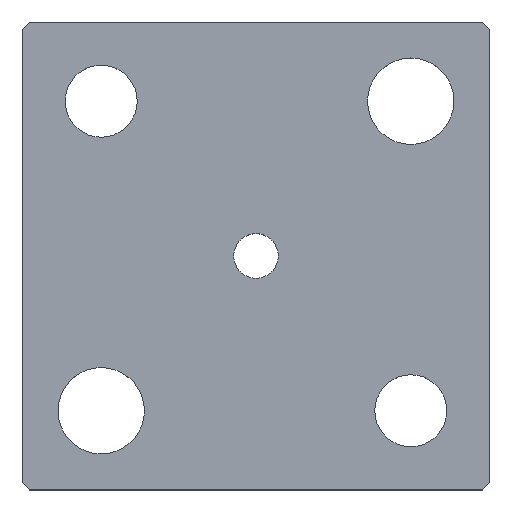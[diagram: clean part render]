
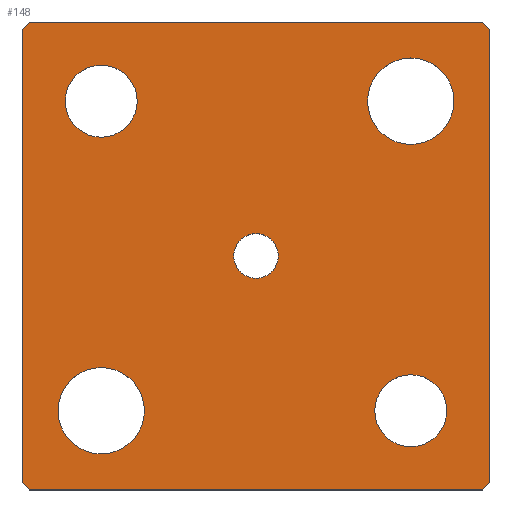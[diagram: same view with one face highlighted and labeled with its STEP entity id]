
A CAD part, top view. The second image highlights one B-rep face of the part: STEP entity #148.
In plain terms, the highlighted planar face has unit normal (0, 0, 1).
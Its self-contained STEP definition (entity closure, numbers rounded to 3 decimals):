
#117=CIRCLE('',#503,3.1);
#118=CIRCLE('',#504,3.1);
#119=CIRCLE('',#505,5.);
#120=CIRCLE('',#506,5.);
#121=CIRCLE('',#507,6.);
#122=CIRCLE('',#508,6.);
#123=CIRCLE('',#509,6.);
#124=CIRCLE('',#510,6.);
#125=CIRCLE('',#511,5.);
#126=CIRCLE('',#512,5.);
#133=FACE_BOUND('',#201,.T.);
#134=FACE_BOUND('',#202,.T.);
#135=FACE_BOUND('',#203,.T.);
#136=FACE_BOUND('',#204,.T.);
#137=FACE_BOUND('',#205,.T.);
#138=FACE_BOUND('',#206,.T.);
#148=ADVANCED_FACE('',(#133,#134,#135,#136,#137,#138),#168,.T.);
#168=PLANE('',#513);
#201=EDGE_LOOP('',(#267,#268,#269,#270,#271,#272,#273,#274));
#202=EDGE_LOOP('',(#275,#276));
#203=EDGE_LOOP('',(#277,#278));
#204=EDGE_LOOP('',(#279,#280));
#205=EDGE_LOOP('',(#281,#282));
#206=EDGE_LOOP('',(#283,#284));
#267=ORIENTED_EDGE('',*,*,#362,.T.);
#268=ORIENTED_EDGE('',*,*,#366,.T.);
#269=ORIENTED_EDGE('',*,*,#369,.T.);
#270=ORIENTED_EDGE('',*,*,#372,.T.);
#271=ORIENTED_EDGE('',*,*,#375,.T.);
#272=ORIENTED_EDGE('',*,*,#378,.T.);
#273=ORIENTED_EDGE('',*,*,#381,.T.);
#274=ORIENTED_EDGE('',*,*,#384,.T.);
#275=ORIENTED_EDGE('',*,*,#395,.T.);
#276=ORIENTED_EDGE('',*,*,#396,.T.);
#277=ORIENTED_EDGE('',*,*,#397,.T.);
#278=ORIENTED_EDGE('',*,*,#398,.T.);
#279=ORIENTED_EDGE('',*,*,#399,.T.);
#280=ORIENTED_EDGE('',*,*,#400,.T.);
#281=ORIENTED_EDGE('',*,*,#401,.T.);
#282=ORIENTED_EDGE('',*,*,#402,.T.);
#283=ORIENTED_EDGE('',*,*,#403,.T.);
#284=ORIENTED_EDGE('',*,*,#404,.T.);
#326=VERTEX_POINT('',#643);
#327=VERTEX_POINT('',#645);
#330=VERTEX_POINT('',#652);
#332=VERTEX_POINT('',#658);
#334=VERTEX_POINT('',#664);
#336=VERTEX_POINT('',#670);
#338=VERTEX_POINT('',#676);
#340=VERTEX_POINT('',#682);
#351=VERTEX_POINT('',#711);
#352=VERTEX_POINT('',#712);
#353=VERTEX_POINT('',#715);
#354=VERTEX_POINT('',#716);
#355=VERTEX_POINT('',#719);
#356=VERTEX_POINT('',#720);
#357=VERTEX_POINT('',#723);
#358=VERTEX_POINT('',#724);
#359=VERTEX_POINT('',#727);
#360=VERTEX_POINT('',#728);
#362=EDGE_CURVE('',#327,#326,#416,.T.);
#366=EDGE_CURVE('',#326,#330,#420,.T.);
#369=EDGE_CURVE('',#330,#332,#423,.T.);
#372=EDGE_CURVE('',#332,#334,#426,.T.);
#375=EDGE_CURVE('',#334,#336,#429,.T.);
#378=EDGE_CURVE('',#336,#338,#432,.T.);
#381=EDGE_CURVE('',#338,#340,#435,.T.);
#384=EDGE_CURVE('',#340,#327,#438,.T.);
#395=EDGE_CURVE('',#351,#352,#117,.T.);
#396=EDGE_CURVE('',#352,#351,#118,.T.);
#397=EDGE_CURVE('',#353,#354,#119,.T.);
#398=EDGE_CURVE('',#354,#353,#120,.T.);
#399=EDGE_CURVE('',#355,#356,#121,.T.);
#400=EDGE_CURVE('',#356,#355,#122,.T.);
#401=EDGE_CURVE('',#357,#358,#123,.T.);
#402=EDGE_CURVE('',#358,#357,#124,.T.);
#403=EDGE_CURVE('',#359,#360,#125,.T.);
#404=EDGE_CURVE('',#360,#359,#126,.T.);
#416=LINE('',#644,#450);
#420=LINE('',#653,#454);
#423=LINE('',#659,#457);
#426=LINE('',#665,#460);
#429=LINE('',#671,#463);
#432=LINE('',#677,#466);
#435=LINE('',#683,#469);
#438=LINE('',#687,#472);
#450=VECTOR('',#527,1.);
#454=VECTOR('',#533,1.);
#457=VECTOR('',#538,1.);
#460=VECTOR('',#543,1.);
#463=VECTOR('',#548,1.);
#466=VECTOR('',#553,1.);
#469=VECTOR('',#558,1.);
#472=VECTOR('',#563,1.);
#503=AXIS2_PLACEMENT_3D('',#710,#588,#589);
#504=AXIS2_PLACEMENT_3D('',#713,#590,#591);
#505=AXIS2_PLACEMENT_3D('',#714,#592,#593);
#506=AXIS2_PLACEMENT_3D('',#717,#594,#595);
#507=AXIS2_PLACEMENT_3D('',#718,#596,#597);
#508=AXIS2_PLACEMENT_3D('',#721,#598,#599);
#509=AXIS2_PLACEMENT_3D('',#722,#600,#601);
#510=AXIS2_PLACEMENT_3D('',#725,#602,#603);
#511=AXIS2_PLACEMENT_3D('',#726,#604,#605);
#512=AXIS2_PLACEMENT_3D('',#729,#606,#607);
#513=AXIS2_PLACEMENT_3D('',#730,#608,#609);
#527=DIRECTION('',(0.707,-0.707,0.));
#533=DIRECTION('',(1.,0.,0.));
#538=DIRECTION('',(0.707,0.707,0.));
#543=DIRECTION('',(0.,1.,0.));
#548=DIRECTION('',(-0.707,0.707,0.));
#553=DIRECTION('',(-1.,0.,0.));
#558=DIRECTION('',(-0.707,-0.707,0.));
#563=DIRECTION('',(0.,-1.,0.));
#588=DIRECTION('',(0.,0.,-1.));
#589=DIRECTION('',(-1.,0.,0.));
#590=DIRECTION('',(0.,0.,-1.));
#591=DIRECTION('',(1.,0.,0.));
#592=DIRECTION('',(0.,0.,-1.));
#593=DIRECTION('',(-1.,0.,0.));
#594=DIRECTION('',(0.,0.,-1.));
#595=DIRECTION('',(1.,0.,0.));
#596=DIRECTION('',(0.,0.,-1.));
#597=DIRECTION('',(-1.,0.,0.));
#598=DIRECTION('',(0.,0.,-1.));
#599=DIRECTION('',(1.,0.,0.));
#600=DIRECTION('',(0.,0.,-1.));
#601=DIRECTION('',(-1.,0.,0.));
#602=DIRECTION('',(0.,0.,-1.));
#603=DIRECTION('',(1.,0.,0.));
#604=DIRECTION('',(0.,0.,-1.));
#605=DIRECTION('',(-1.,0.,0.));
#606=DIRECTION('',(0.,0.,-1.));
#607=DIRECTION('',(1.,0.,0.));
#608=DIRECTION('',(0.,0.,1.));
#609=DIRECTION('',(0.,-1.,0.));
#643=CARTESIAN_POINT('',(-31.5,-32.5,5.));
#644=CARTESIAN_POINT('',(-32.5,-31.5,5.));
#645=CARTESIAN_POINT('',(-32.5,-31.5,5.));
#652=CARTESIAN_POINT('',(31.5,-32.5,5.));
#653=CARTESIAN_POINT('',(-31.5,-32.5,5.));
#658=CARTESIAN_POINT('',(32.5,-31.5,5.));
#659=CARTESIAN_POINT('',(32.5,-31.5,5.));
#664=CARTESIAN_POINT('',(32.5,31.5,5.));
#665=CARTESIAN_POINT('',(32.5,31.5,5.));
#670=CARTESIAN_POINT('',(31.5,32.5,5.));
#671=CARTESIAN_POINT('',(31.5,32.5,5.));
#676=CARTESIAN_POINT('',(-31.5,32.5,5.));
#677=CARTESIAN_POINT('',(-31.5,32.5,5.));
#682=CARTESIAN_POINT('',(-32.5,31.5,5.));
#683=CARTESIAN_POINT('',(-32.5,31.5,5.));
#687=CARTESIAN_POINT('',(-32.5,31.5,5.));
#710=CARTESIAN_POINT('',(0.,0.,5.));
#711=CARTESIAN_POINT('',(0.,3.1,5.));
#712=CARTESIAN_POINT('',(0.,-3.1,5.));
#713=CARTESIAN_POINT('',(0.,0.,5.));
#714=CARTESIAN_POINT('',(-21.5,21.5,5.));
#715=CARTESIAN_POINT('',(-21.5,26.5,5.));
#716=CARTESIAN_POINT('',(-21.5,16.5,5.));
#717=CARTESIAN_POINT('',(-21.5,21.5,5.));
#718=CARTESIAN_POINT('',(21.5,21.5,5.));
#719=CARTESIAN_POINT('',(21.5,27.5,5.));
#720=CARTESIAN_POINT('',(21.5,15.5,5.));
#721=CARTESIAN_POINT('',(21.5,21.5,5.));
#722=CARTESIAN_POINT('',(-21.5,-21.5,5.));
#723=CARTESIAN_POINT('',(-21.5,-15.5,5.));
#724=CARTESIAN_POINT('',(-21.5,-27.5,5.));
#725=CARTESIAN_POINT('',(-21.5,-21.5,5.));
#726=CARTESIAN_POINT('',(21.5,-21.5,5.));
#727=CARTESIAN_POINT('',(21.5,-16.5,5.));
#728=CARTESIAN_POINT('',(21.5,-26.5,5.));
#729=CARTESIAN_POINT('',(21.5,-21.5,5.));
#730=CARTESIAN_POINT('',(-32.5,-31.5,5.));
